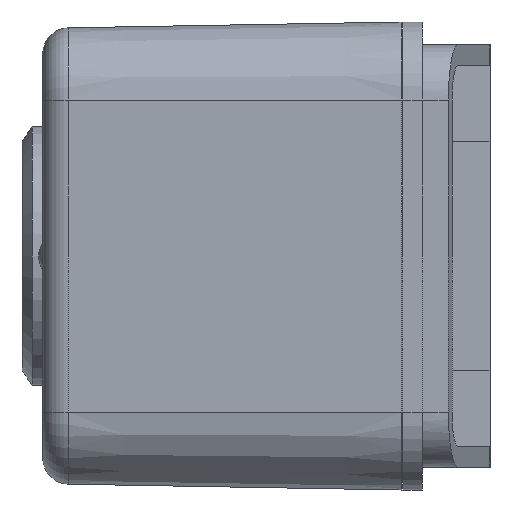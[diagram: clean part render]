
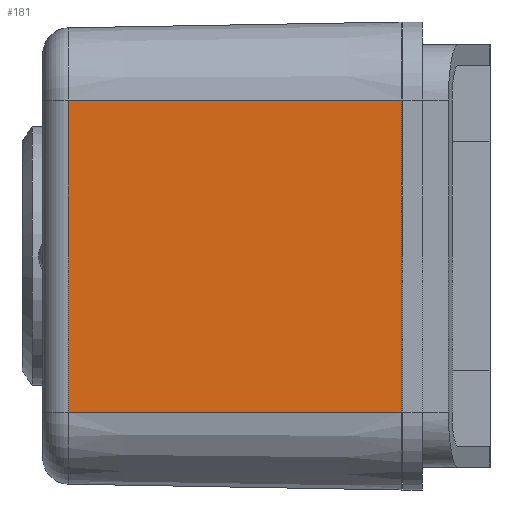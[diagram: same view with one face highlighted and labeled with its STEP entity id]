
A CAD part, left-side view. The second image highlights one B-rep face of the part: STEP entity #181.
In plain terms, the highlighted planar face has unit normal (-1, 0.018, 0).
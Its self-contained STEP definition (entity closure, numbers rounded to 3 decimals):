
#181 = ADVANCED_FACE( '', ( #512 ), #513, .T. );
#512 = FACE_OUTER_BOUND( '', #976, .T. );
#513 = PLANE( '', #977 );
#976 = EDGE_LOOP( '', ( #2199, #2200, #2201, #2202 ) );
#977 = AXIS2_PLACEMENT_3D( '', #2203, #2204, #2205 );
#2199 = ORIENTED_EDGE( '', *, *, #3278, .F. );
#2200 = ORIENTED_EDGE( '', *, *, #3279, .T. );
#2201 = ORIENTED_EDGE( '', *, *, #3280, .T. );
#2202 = ORIENTED_EDGE( '', *, *, #3275, .T. );
#2203 = CARTESIAN_POINT( '', ( -45., 8.5, -15. ) );
#2204 = DIRECTION( '', ( -1., 0.017, 0. ) );
#2205 = DIRECTION( '', ( -0.017, -1., 0. ) );
#3275 = EDGE_CURVE( '', #4081, #4079, #4082, .T. );
#3278 = EDGE_CURVE( '', #4086, #4079, #4087, .T. );
#3279 = EDGE_CURVE( '', #4086, #4088, #4089, .F. );
#3280 = EDGE_CURVE( '', #4088, #4081, #4090, .T. );
#4079 = VERTEX_POINT( '', #5288 );
#4081 = VERTEX_POINT( '', #5290 );
#4082 = LINE( '', #5291, #5292 );
#4086 = VERTEX_POINT( '', #5297 );
#4087 = LINE( '', #5298, #5299 );
#4088 = VERTEX_POINT( '', #5300 );
#4089 = LINE( '', #5301, #5302 );
#4090 = LINE( '', #5303, #5304 );
#5288 = CARTESIAN_POINT( '', ( -45., 8.5, 15. ) );
#5290 = CARTESIAN_POINT( '', ( -45., 8.5, -15. ) );
#5291 = CARTESIAN_POINT( '', ( -45., 8.5, -15. ) );
#5292 = VECTOR( '', #6110, 1000. );
#5297 = CARTESIAN_POINT( '', ( -44.441, 40.544, 15. ) );
#5298 = CARTESIAN_POINT( '', ( -45., 8.5, 15. ) );
#5299 = VECTOR( '', #6115, 1000. );
#5300 = CARTESIAN_POINT( '', ( -44.441, 40.544, -15. ) );
#5301 = CARTESIAN_POINT( '', ( -44.441, 40.544, -15. ) );
#5302 = VECTOR( '', #6116, 1000. );
#5303 = CARTESIAN_POINT( '', ( -45., 8.5, -15. ) );
#5304 = VECTOR( '', #6117, 1000. );
#6110 = DIRECTION( '', ( 0., 0., 1. ) );
#6115 = DIRECTION( '', ( -0.017, -1., 0. ) );
#6116 = DIRECTION( '', ( 0., 0., 1. ) );
#6117 = DIRECTION( '', ( -0.017, -1., 0. ) );
